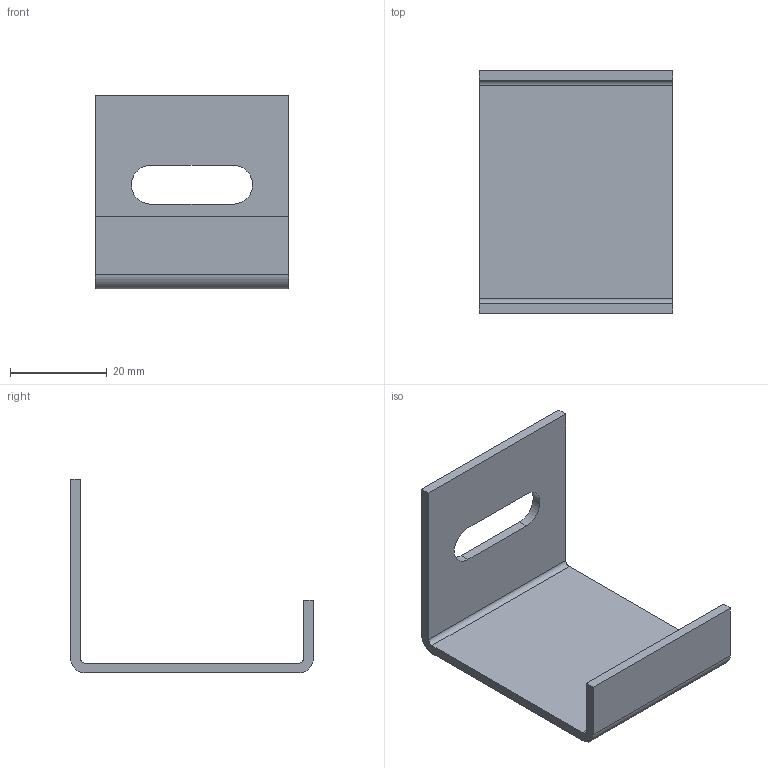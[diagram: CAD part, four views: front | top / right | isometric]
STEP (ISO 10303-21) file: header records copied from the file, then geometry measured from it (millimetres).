
FILE_DESCRIPTION(/* description */ (''),/* implementation_level */ '2;1');
FILE_NAME(/* name */ 'GE-YCD.step',/* time_stamp */ '2025-12-16T17:29:11+03:00',/* author */ (''),/* organization */ (''),/* preprocessor_version */ 'ST-DEVELOPER v20.1',/* originating_system */ 'Autodesk Translation Framework v14.21.0.0',/* authorisation */ '');
FILE_SCHEMA (('AUTOMOTIVE_DESIGN { 1 0 10303 214 3 1 1 }'));
Length unit declared in the file: millimetre
Products named in the file (1): GE-YCD
Bounding box: 40 x 50 x 40 mm (x, y, z)
Volume: 7570.1 mm3; surface area: 8245.5 mm2
Topology: 1 solids, 1 shells, 18 faces, 48 edges, 32 vertices
Faces by surface type: plane 12, cylinder 6
Entity records: 608 total; most frequent: CARTESIAN_POINT 99, DIRECTION 98, ORIENTED_EDGE 96, EDGE_CURVE 48, LINE 36, VECTOR 36, VERTEX_POINT 32, AXIS2_PLACEMENT_3D 31
